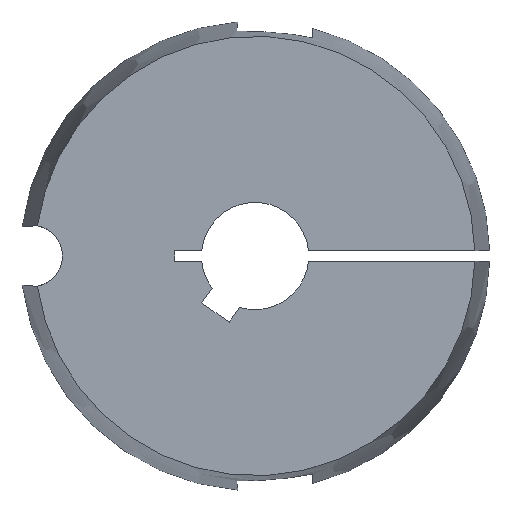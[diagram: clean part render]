
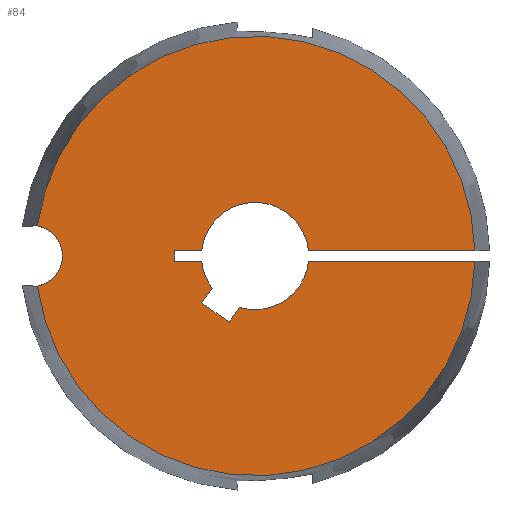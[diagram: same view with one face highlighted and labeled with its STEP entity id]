
A CAD part, left-side view. The second image highlights one B-rep face of the part: STEP entity #84.
In plain terms, the highlighted planar face has unit normal (-1, 0, 0).
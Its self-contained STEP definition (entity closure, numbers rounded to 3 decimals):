
#84 = ADVANCED_FACE( '', ( #114 ), #115, .F. );
#114 = FACE_OUTER_BOUND( '', #154, .T. );
#115 = PLANE( '', #155 );
#154 = EDGE_LOOP( '', ( #251, #252, #253, #254, #255, #256, #257, #258, #259, #260, #261, #262, #263, #264 ) );
#155 = AXIS2_PLACEMENT_3D( '', #265, #266, #267 );
#251 = ORIENTED_EDGE( '', *, *, #349, .T. );
#252 = ORIENTED_EDGE( '', *, *, #381, .F. );
#253 = ORIENTED_EDGE( '', *, *, #352, .T. );
#254 = ORIENTED_EDGE( '', *, *, #365, .T. );
#255 = ORIENTED_EDGE( '', *, *, #363, .T. );
#256 = ORIENTED_EDGE( '', *, *, #360, .T. );
#257 = ORIENTED_EDGE( '', *, *, #369, .T. );
#258 = ORIENTED_EDGE( '', *, *, #382, .T. );
#259 = ORIENTED_EDGE( '', *, *, #383, .T. );
#260 = ORIENTED_EDGE( '', *, *, #384, .T. );
#261 = ORIENTED_EDGE( '', *, *, #385, .T. );
#262 = ORIENTED_EDGE( '', *, *, #386, .T. );
#263 = ORIENTED_EDGE( '', *, *, #354, .T. );
#264 = ORIENTED_EDGE( '', *, *, #387, .F. );
#265 = CARTESIAN_POINT( '', ( -31.8, 0., 0. ) );
#266 = DIRECTION( '', ( 1., 0., 0. ) );
#267 = DIRECTION( '', ( 0., 0., -1. ) );
#349 = EDGE_CURVE( '', #402, #407, #409, .T. );
#352 = EDGE_CURVE( '', #415, #413, #416, .T. );
#354 = EDGE_CURVE( '', #418, #419, #420, .T. );
#360 = EDGE_CURVE( '', #431, #429, #432, .T. );
#363 = EDGE_CURVE( '', #436, #431, #437, .T. );
#365 = EDGE_CURVE( '', #413, #436, #439, .T. );
#369 = EDGE_CURVE( '', #429, #443, #445, .T. );
#381 = EDGE_CURVE( '', #415, #407, #465, .T. );
#382 = EDGE_CURVE( '', #443, #466, #467, .T. );
#383 = EDGE_CURVE( '', #466, #468, #469, .T. );
#384 = EDGE_CURVE( '', #468, #470, #471, .T. );
#385 = EDGE_CURVE( '', #470, #472, #473, .T. );
#386 = EDGE_CURVE( '', #472, #418, #474, .T. );
#387 = EDGE_CURVE( '', #402, #419, #475, .T. );
#402 = VERTEX_POINT( '', #521 );
#407 = VERTEX_POINT( '', #531 );
#409 = CIRCLE( '', #538, 4.6 );
#413 = VERTEX_POINT( '', #543 );
#415 = VERTEX_POINT( '', #546 );
#416 = LINE( '', #547, #548 );
#418 = VERTEX_POINT( '', #556 );
#419 = VERTEX_POINT( '', #557 );
#420 = LINE( '', #558, #559 );
#429 = VERTEX_POINT( '', #577 );
#431 = VERTEX_POINT( '', #580 );
#432 = LINE( '', #581, #582 );
#436 = VERTEX_POINT( '', #588 );
#437 = LINE( '', #589, #590 );
#439 = CIRCLE( '', #593, 8. );
#443 = VERTEX_POINT( '', #598 );
#445 = LINE( '', #601, #602 );
#465 = CIRCLE( '', #625, 32.776 );
#466 = VERTEX_POINT( '', #626 );
#467 = CIRCLE( '', #627, 8. );
#468 = VERTEX_POINT( '', #628 );
#469 = LINE( '', #629, #630 );
#470 = VERTEX_POINT( '', #631 );
#471 = LINE( '', #632, #633 );
#472 = VERTEX_POINT( '', #634 );
#473 = LINE( '', #635, #636 );
#474 = CIRCLE( '', #637, 8. );
#475 = CIRCLE( '', #638, 32.776 );
#521 = CARTESIAN_POINT( '', ( -31.8, 32.464, 4.516 ) );
#531 = CARTESIAN_POINT( '', ( -31.8, 32.464, -4.516 ) );
#538 = AXIS2_PLACEMENT_3D( '', #702, #703, #704 );
#543 = CARTESIAN_POINT( '', ( -31.8, -7.965, -0.75 ) );
#546 = CARTESIAN_POINT( '', ( -31.8, -32.768, -0.75 ) );
#547 = CARTESIAN_POINT( '', ( -31.8, -35., -0.75 ) );
#548 = VECTOR( '', #707, 1000. );
#556 = CARTESIAN_POINT( '', ( -31.8, -7.965, 0.75 ) );
#557 = CARTESIAN_POINT( '', ( -31.8, -32.768, 0.75 ) );
#558 = CARTESIAN_POINT( '', ( -31.8, 0., 0.75 ) );
#559 = VECTOR( '', #708, 1000. );
#577 = CARTESIAN_POINT( '', ( -31.8, 7.956, -7.003 ) );
#580 = CARTESIAN_POINT( '', ( -31.8, 3.86, -9.871 ) );
#581 = CARTESIAN_POINT( '', ( -31.8, 3.86, -9.871 ) );
#582 = VECTOR( '', #713, 1000. );
#588 = CARTESIAN_POINT( '', ( -31.8, 2.311, -7.659 ) );
#589 = CARTESIAN_POINT( '', ( -31.8, 2.311, -7.659 ) );
#590 = VECTOR( '', #716, 1000. );
#593 = AXIS2_PLACEMENT_3D( '', #718, #719, #720 );
#598 = CARTESIAN_POINT( '', ( -31.8, 6.407, -4.791 ) );
#601 = CARTESIAN_POINT( '', ( -31.8, 7.956, -7.003 ) );
#602 = VECTOR( '', #726, 1000. );
#625 = AXIS2_PLACEMENT_3D( '', #754, #755, #756 );
#626 = CARTESIAN_POINT( '', ( -31.8, 7.965, -0.75 ) );
#627 = AXIS2_PLACEMENT_3D( '', #757, #758, #759 );
#628 = CARTESIAN_POINT( '', ( -31.8, 12., -0.75 ) );
#629 = CARTESIAN_POINT( '', ( -31.8, 0., -0.75 ) );
#630 = VECTOR( '', #760, 1000. );
#631 = CARTESIAN_POINT( '', ( -31.8, 12., 0.75 ) );
#632 = CARTESIAN_POINT( '', ( -31.8, 12., -0.75 ) );
#633 = VECTOR( '', #761, 1000. );
#634 = CARTESIAN_POINT( '', ( -31.8, 7.965, 0.75 ) );
#635 = CARTESIAN_POINT( '', ( -31.8, 12., 0.75 ) );
#636 = VECTOR( '', #762, 1000. );
#637 = AXIS2_PLACEMENT_3D( '', #763, #764, #765 );
#638 = AXIS2_PLACEMENT_3D( '', #766, #767, #768 );
#702 = CARTESIAN_POINT( '', ( -31.8, 33.34, 0. ) );
#703 = DIRECTION( '', ( 1., 0., 0. ) );
#704 = DIRECTION( '', ( 0., 1., 0. ) );
#707 = DIRECTION( '', ( 0., 1., 0. ) );
#708 = DIRECTION( '', ( 0., -1., 0. ) );
#713 = DIRECTION( '', ( 0., 0.819, 0.574 ) );
#716 = DIRECTION( '', ( 0., 0.574, -0.819 ) );
#718 = CARTESIAN_POINT( '', ( -31.8, 0., 0. ) );
#719 = DIRECTION( '', ( 1., 0., 0. ) );
#720 = DIRECTION( '', ( 0., 0., -1. ) );
#726 = DIRECTION( '', ( 0., -0.574, 0.819 ) );
#754 = CARTESIAN_POINT( '', ( -31.8, 0., 0. ) );
#755 = DIRECTION( '', ( 1., 0., 0. ) );
#756 = DIRECTION( '', ( 0., 0., -1. ) );
#757 = CARTESIAN_POINT( '', ( -31.8, 0., 0. ) );
#758 = DIRECTION( '', ( 1., 0., 0. ) );
#759 = DIRECTION( '', ( 0., 0., -1. ) );
#760 = DIRECTION( '', ( 0., 1., 0. ) );
#761 = DIRECTION( '', ( 0., 0., 1. ) );
#762 = DIRECTION( '', ( 0., -1., 0. ) );
#763 = CARTESIAN_POINT( '', ( -31.8, 0., 0. ) );
#764 = DIRECTION( '', ( 1., 0., 0. ) );
#765 = DIRECTION( '', ( 0., 0., -1. ) );
#766 = CARTESIAN_POINT( '', ( -31.8, 0., 0. ) );
#767 = DIRECTION( '', ( 1., 0., 0. ) );
#768 = DIRECTION( '', ( 0., 0., -1. ) );
